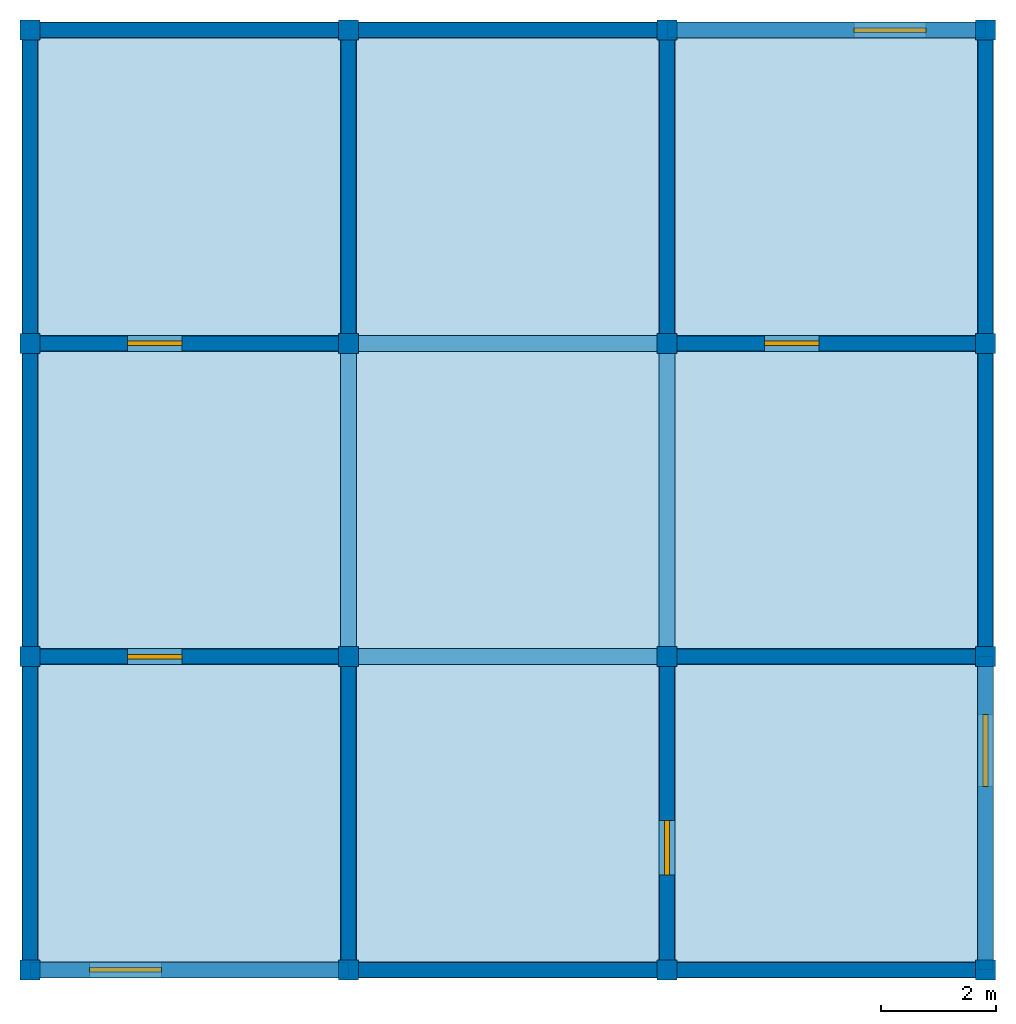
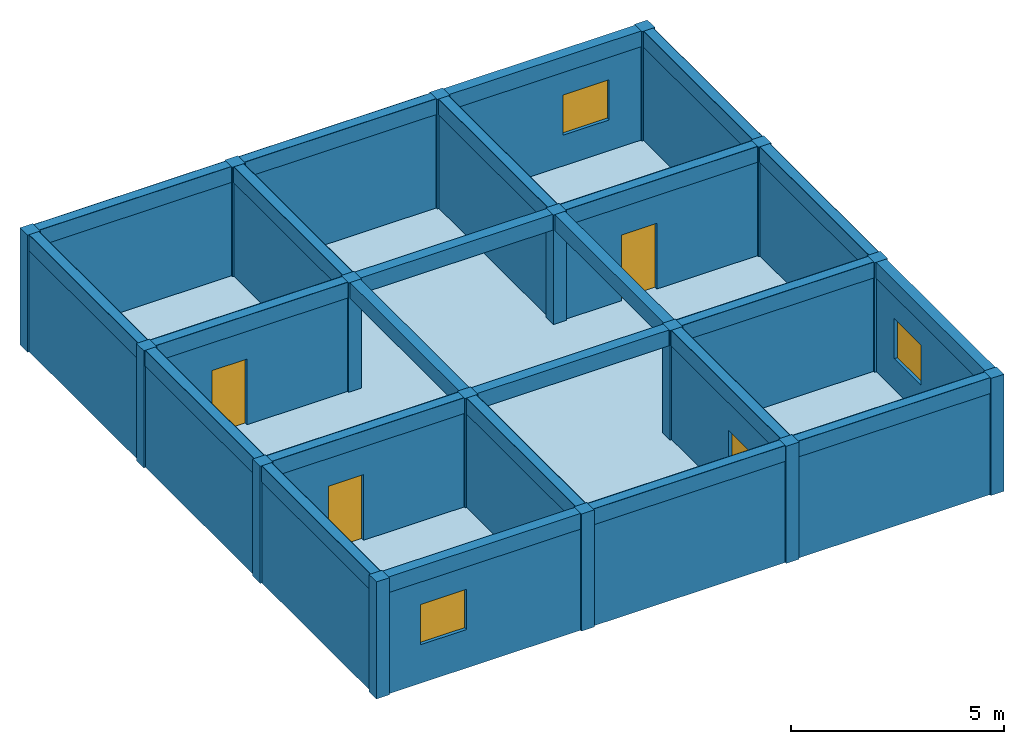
# One storey: 24 beams, 20 walls, 16 columns, 4 doors, 3 windows, 1 slab, 7 openings.
"""IFC4X3 building model written with IfcOpenShell, lengths in metres."""

from ifc_helpers import new_model, si_unit, frame, origin_with_axes, origin_2d, place, context, project, spatial, rectangle, extrude, material, element, fill, save


model = new_model("IFC4X3")

# Units and contexts
model_context = context("Model", 3, precision=1e-05, world=origin_with_axes())
ifc_project = project(units=[si_unit("LENGTHUNIT", "METRE"), si_unit("AREAUNIT", "SQUARE_METRE"), si_unit("VOLUMEUNIT", "CUBIC_METRE")], contexts=[model_context])

# Site, building, storey
site = spatial("IfcSite", under=ifc_project, Name="La Serena Parcel", CompositionType="ELEMENT")
building = spatial("IfcBuilding", under=site, Name="Atlas Building", CompositionType="ELEMENT")
storey = spatial("IfcBuildingStorey", under=building, Name="Level 12", CompositionType="ELEMENT", Elevation=36.84)

# Columns
ifc_material_1 = material(Name="Concrete")
column_1_placement = place(None, frame((-8.31, -8.175, 36.839), z_axis=(0.0, 0.0, 1.0), x_axis=(1.0, 0.0, 0.0)))
element("IfcColumn", 1, at=column_1_placement, inside=storey, material=ifc_material_1, Name="Column 12.1", ObjectType="Core Column", PredefinedType="PILASTER", context=model_context, shape_type="SweptSolid", body=[
    extrude(rectangle(XDim=0.35, YDim=0.35, at=origin_2d()), origin_with_axes(), (0.0, 0.0, 1.0), 3.349),
])
column_2_placement = place(None, frame((-8.31, -2.725, 36.839), z_axis=(0.0, 0.0, 1.0), x_axis=(1.0, 0.0, 0.0)))
element("IfcColumn", 2, at=column_2_placement, inside=storey, material=ifc_material_1, Name="Column 12.2", ObjectType="Structural Column", PredefinedType="NOTDEFINED", context=model_context, shape_type="SweptSolid", body=[
    extrude(rectangle(XDim=0.35, YDim=0.35, at=origin_2d()), origin_with_axes(), (0.0, 0.0, 1.0), 3.349),
])
column_3_placement = place(None, frame((-8.31, 2.725, 36.839), z_axis=(0.0, 0.0, 1.0), x_axis=(1.0, 0.0, 0.0)))
element("IfcColumn", 3, at=column_3_placement, inside=storey, material=ifc_material_1, Name="Column 12.3", ObjectType="Structural Column", PredefinedType="PILASTER", context=model_context, shape_type="SweptSolid", body=[
    extrude(rectangle(XDim=0.35, YDim=0.35, at=origin_2d()), origin_with_axes(), (0.0, 0.0, 1.0), 3.349),
])
column_4_placement = place(None, frame((-8.31, 8.175, 36.839), z_axis=(0.0, 0.0, 1.0), x_axis=(1.0, 0.0, 0.0)))
element("IfcColumn", 4, at=column_4_placement, inside=storey, material=ifc_material_1, Name="Column 12.4", ObjectType="Core Column", PredefinedType="NOTDEFINED", context=model_context, shape_type="SweptSolid", body=[
    extrude(rectangle(XDim=0.35, YDim=0.35, at=origin_2d()), origin_with_axes(), (0.0, 0.0, 1.0), 3.349),
])
for number, where, z_axis, x_axis, name in (
    (5, (-2.77, -8.175, 36.839), (0.0, 0.0, 1.0), (1.0, 0.0, 0.0), "Column 12.5"),
    (6, (-2.77, -2.725, 36.839), (0.0, 0.0, 1.0), (1.0, 0.0, 0.0), "Column 12.6"),
):
    element("IfcColumn", number, at=place(None, frame(where, z_axis=z_axis, x_axis=x_axis)), inside=storey, material=ifc_material_1, Name=name, ObjectType="Facade Column", PredefinedType="USERDEFINED", context=model_context, shape_type="SweptSolid", body=[
        extrude(rectangle(XDim=0.35, YDim=0.35, at=origin_2d()), origin_with_axes(), (0.0, 0.0, 1.0), 3.349),
    ])
for number, where, z_axis, x_axis, name in (
    (7, (-2.77, 2.725, 36.839), (0.0, 0.0, 1.0), (1.0, 0.0, 0.0), "Column 12.7"),
    (8, (-2.77, 8.175, 36.839), (0.0, 0.0, 1.0), (1.0, 0.0, 0.0), "Column 12.8"),
):
    element("IfcColumn", number, at=place(None, frame(where, z_axis=z_axis, x_axis=x_axis)), inside=storey, material=ifc_material_1, Name=name, ObjectType="Corner Column", PredefinedType="NOTDEFINED", context=model_context, shape_type="SweptSolid", body=[
        extrude(rectangle(XDim=0.35, YDim=0.35, at=origin_2d()), origin_with_axes(), (0.0, 0.0, 1.0), 3.349),
    ])
column_5_placement = place(None, frame((2.77, -8.175, 36.839), z_axis=(0.0, 0.0, 1.0), x_axis=(1.0, 0.0, 0.0)))
element("IfcColumn", 9, at=column_5_placement, inside=storey, material=ifc_material_1, Name="Column 12.9", ObjectType="Facade Column", PredefinedType="COLUMN", context=model_context, shape_type="SweptSolid", body=[
    extrude(rectangle(XDim=0.35, YDim=0.35, at=origin_2d()), origin_with_axes(), (0.0, 0.0, 1.0), 3.349),
])
column_6_placement = place(None, frame((2.77, -2.725, 36.839), z_axis=(0.0, 0.0, 1.0), x_axis=(1.0, 0.0, 0.0)))
element("IfcColumn", 10, at=column_6_placement, inside=storey, material=ifc_material_1, Name="Column 12.10", ObjectType="Core Column", PredefinedType="USERDEFINED", context=model_context, shape_type="SweptSolid", body=[
    extrude(rectangle(XDim=0.35, YDim=0.35, at=origin_2d()), origin_with_axes(), (0.0, 0.0, 1.0), 3.349),
])
column_7_placement = place(None, frame((2.77, 2.725, 36.839), z_axis=(0.0, 0.0, 1.0), x_axis=(1.0, 0.0, 0.0)))
element("IfcColumn", 11, at=column_7_placement, inside=storey, material=ifc_material_1, Name="Column 12.11", ObjectType="Core Column", PredefinedType="PILASTER", context=model_context, shape_type="SweptSolid", body=[
    extrude(rectangle(XDim=0.35, YDim=0.35, at=origin_2d()), origin_with_axes(), (0.0, 0.0, 1.0), 3.349),
])
column_8_placement = place(None, frame((2.77, 8.175, 36.839), z_axis=(0.0, 0.0, 1.0), x_axis=(1.0, 0.0, 0.0)))
element("IfcColumn", 12, at=column_8_placement, inside=storey, material=ifc_material_1, Name="Column 12.12", ObjectType="Corner Column", PredefinedType="USERDEFINED", context=model_context, shape_type="SweptSolid", body=[
    extrude(rectangle(XDim=0.35, YDim=0.35, at=origin_2d()), origin_with_axes(), (0.0, 0.0, 1.0), 3.349),
])
column_9_placement = place(None, frame((8.31, -8.175, 36.839), z_axis=(0.0, 0.0, 1.0), x_axis=(1.0, 0.0, 0.0)))
element("IfcColumn", 13, at=column_9_placement, inside=storey, material=ifc_material_1, Name="Column 12.13", ObjectType="Facade Column", PredefinedType="COLUMN", context=model_context, shape_type="SweptSolid", body=[
    extrude(rectangle(XDim=0.35, YDim=0.35, at=origin_2d()), origin_with_axes(), (0.0, 0.0, 1.0), 3.349),
])
for number, where, z_axis, x_axis, name in (
    (14, (8.31, -2.725, 36.839), (0.0, 0.0, 1.0), (1.0, 0.0, 0.0), "Column 12.14"),
    (15, (8.31, 2.725, 36.839), (0.0, 0.0, 1.0), (1.0, 0.0, 0.0), "Column 12.15"),
):
    element("IfcColumn", number, at=place(None, frame(where, z_axis=z_axis, x_axis=x_axis)), inside=storey, material=ifc_material_1, Name=name, ObjectType="Facade Column", PredefinedType="PILASTER", context=model_context, shape_type="SweptSolid", body=[
        extrude(rectangle(XDim=0.35, YDim=0.35, at=origin_2d()), origin_with_axes(), (0.0, 0.0, 1.0), 3.349),
    ])
column_10_placement = place(None, frame((8.31, 8.175, 36.839), z_axis=(0.0, 0.0, 1.0), x_axis=(1.0, 0.0, 0.0)))
element("IfcColumn", 16, at=column_10_placement, inside=storey, material=ifc_material_1, Name="Column 12.16", ObjectType="Structural Column", PredefinedType="USERDEFINED", context=model_context, shape_type="SweptSolid", body=[
    extrude(rectangle(XDim=0.35, YDim=0.35, at=origin_2d()), origin_with_axes(), (0.0, 0.0, 1.0), 3.349),
])

# Beams
beam_1_placement = place(None, frame((-5.54, -8.175, 39.738), z_axis=(0.0, 0.0, 1.0), x_axis=(1.0, 0.0, 0.0)))
element("IfcBeam", 17, at=beam_1_placement, inside=storey, material=ifc_material_1, Name="Beam 12.1", ObjectType="Rafter Beam", PredefinedType="T_BEAM", context=model_context, shape_type="SweptSolid", body=[
    extrude(rectangle(XDim=5.54, YDim=0.28, at=origin_2d()), origin_with_axes(), (0.0, 0.0, 1.0), 0.45),
])
beam_2_placement = place(None, frame((0.0, -8.175, 39.738), z_axis=(0.0, 0.0, 1.0), x_axis=(1.0, 0.0, 0.0)))
element("IfcBeam", 18, at=beam_2_placement, inside=storey, material=ifc_material_1, Name="Beam 12.2", ObjectType="Transfer Beam", PredefinedType="SPANDREL", context=model_context, shape_type="SweptSolid", body=[
    extrude(rectangle(XDim=5.54, YDim=0.28, at=origin_2d()), origin_with_axes(), (0.0, 0.0, 1.0), 0.45),
])
beam_3_placement = place(None, frame((5.54, -8.175, 39.738), z_axis=(0.0, 0.0, 1.0), x_axis=(1.0, 0.0, 0.0)))
element("IfcBeam", 19, at=beam_3_placement, inside=storey, material=ifc_material_1, Name="Beam 12.3", ObjectType="Ridge Beam", PredefinedType="NOTDEFINED", context=model_context, shape_type="SweptSolid", body=[
    extrude(rectangle(XDim=5.54, YDim=0.28, at=origin_2d()), origin_with_axes(), (0.0, 0.0, 1.0), 0.45),
])
beam_4_placement = place(None, frame((-5.54, -2.725, 39.738), z_axis=(0.0, 0.0, 1.0), x_axis=(1.0, 0.0, 0.0)))
element("IfcBeam", 20, at=beam_4_placement, inside=storey, material=ifc_material_1, Name="Beam 12.4", ObjectType="Transfer Beam", PredefinedType="T_BEAM", context=model_context, shape_type="SweptSolid", body=[
    extrude(rectangle(XDim=5.54, YDim=0.28, at=origin_2d()), origin_with_axes(), (0.0, 0.0, 1.0), 0.45),
])
beam_5_placement = place(None, frame((0.0, -2.725, 39.738), z_axis=(0.0, 0.0, 1.0), x_axis=(1.0, 0.0, 0.0)))
element("IfcBeam", 21, at=beam_5_placement, inside=storey, material=ifc_material_1, Name="Beam 12.5", ObjectType="Secondary Beam", PredefinedType="SPANDREL", context=model_context, shape_type="SweptSolid", body=[
    extrude(rectangle(XDim=5.54, YDim=0.28, at=origin_2d()), origin_with_axes(), (0.0, 0.0, 1.0), 0.45),
])
beam_6_placement = place(None, frame((5.54, -2.725, 39.738), z_axis=(0.0, 0.0, 1.0), x_axis=(1.0, 0.0, 0.0)))
element("IfcBeam", 22, at=beam_6_placement, inside=storey, material=ifc_material_1, Name="Beam 12.6", ObjectType="Primary Beam", PredefinedType="SPANDREL", context=model_context, shape_type="SweptSolid", body=[
    extrude(rectangle(XDim=5.54, YDim=0.28, at=origin_2d()), origin_with_axes(), (0.0, 0.0, 1.0), 0.45),
])
for number, where, z_axis, x_axis, name in (
    (23, (-5.54, 2.725, 39.738), (0.0, 0.0, 1.0), (1.0, 0.0, 0.0), "Beam 12.7"),
    (24, (0.0, 2.725, 39.738), (0.0, 0.0, 1.0), (1.0, 0.0, 0.0), "Beam 12.8"),
):
    element("IfcBeam", number, at=place(None, frame(where, z_axis=z_axis, x_axis=x_axis)), inside=storey, material=ifc_material_1, Name=name, ObjectType="Ridge Beam", PredefinedType="JOIST", context=model_context, shape_type="SweptSolid", body=[
        extrude(rectangle(XDim=5.54, YDim=0.28, at=origin_2d()), origin_with_axes(), (0.0, 0.0, 1.0), 0.45),
    ])
beam_7_placement = place(None, frame((5.54, 2.725, 39.738), z_axis=(0.0, 0.0, 1.0), x_axis=(1.0, 0.0, 0.0)))
element("IfcBeam", 25, at=beam_7_placement, inside=storey, material=ifc_material_1, Name="Beam 12.9", ObjectType="Primary Beam", PredefinedType="SPANDREL", context=model_context, shape_type="SweptSolid", body=[
    extrude(rectangle(XDim=5.54, YDim=0.28, at=origin_2d()), origin_with_axes(), (0.0, 0.0, 1.0), 0.45),
])
for number, where, z_axis, x_axis, name in (
    (26, (-5.54, 8.175, 39.738), (0.0, 0.0, 1.0), (1.0, 0.0, 0.0), "Beam 12.10"),
    (27, (0.0, 8.175, 39.738), (0.0, 0.0, 1.0), (1.0, 0.0, 0.0), "Beam 12.11"),
):
    element("IfcBeam", number, at=place(None, frame(where, z_axis=z_axis, x_axis=x_axis)), inside=storey, material=ifc_material_1, Name=name, ObjectType="Secondary Beam", PredefinedType="T_BEAM", context=model_context, shape_type="SweptSolid", body=[
        extrude(rectangle(XDim=5.54, YDim=0.28, at=origin_2d()), origin_with_axes(), (0.0, 0.0, 1.0), 0.45),
    ])
beam_8_placement = place(None, frame((5.54, 8.175, 39.738), z_axis=(0.0, 0.0, 1.0), x_axis=(1.0, 0.0, 0.0)))
element("IfcBeam", 28, at=beam_8_placement, inside=storey, material=ifc_material_1, Name="Beam 12.12", ObjectType="Secondary Beam", PredefinedType="NOTDEFINED", context=model_context, shape_type="SweptSolid", body=[
    extrude(rectangle(XDim=5.54, YDim=0.28, at=origin_2d()), origin_with_axes(), (0.0, 0.0, 1.0), 0.45),
])
beam_9_placement = place(None, frame((-8.31, -5.45, 39.738), z_axis=(0.0, 0.0, 1.0), x_axis=(0.0, 1.0, 0.0)))
element("IfcBeam", 29, at=beam_9_placement, inside=storey, material=ifc_material_1, Name="Beam 12.13", ObjectType="Secondary Beam", PredefinedType="LINTEL", context=model_context, shape_type="SweptSolid", body=[
    extrude(rectangle(XDim=5.45, YDim=0.28, at=origin_2d()), origin_with_axes(), (0.0, 0.0, 1.0), 0.45),
])
beam_10_placement = place(None, frame((-8.31, 0.0, 39.738), z_axis=(0.0, 0.0, 1.0), x_axis=(0.0, 1.0, 0.0)))
element("IfcBeam", 30, at=beam_10_placement, inside=storey, material=ifc_material_1, Name="Beam 12.14", ObjectType="Secondary Beam", PredefinedType="T_BEAM", context=model_context, shape_type="SweptSolid", body=[
    extrude(rectangle(XDim=5.45, YDim=0.28, at=origin_2d()), origin_with_axes(), (0.0, 0.0, 1.0), 0.45),
])
beam_11_placement = place(None, frame((-8.31, 5.45, 39.738), z_axis=(0.0, 0.0, 1.0), x_axis=(0.0, 1.0, 0.0)))
element("IfcBeam", 31, at=beam_11_placement, inside=storey, material=ifc_material_1, Name="Beam 12.15", ObjectType="Primary Beam", PredefinedType="LINTEL", context=model_context, shape_type="SweptSolid", body=[
    extrude(rectangle(XDim=5.45, YDim=0.28, at=origin_2d()), origin_with_axes(), (0.0, 0.0, 1.0), 0.45),
])
beam_12_placement = place(None, frame((-2.77, -5.45, 39.738), z_axis=(0.0, 0.0, 1.0), x_axis=(0.0, 1.0, 0.0)))
element("IfcBeam", 32, at=beam_12_placement, inside=storey, material=ifc_material_1, Name="Beam 12.16", ObjectType="Transfer Beam", PredefinedType="T_BEAM", context=model_context, shape_type="SweptSolid", body=[
    extrude(rectangle(XDim=5.45, YDim=0.28, at=origin_2d()), origin_with_axes(), (0.0, 0.0, 1.0), 0.45),
])
beam_13_placement = place(None, frame((-2.77, 0.0, 39.738), z_axis=(0.0, 0.0, 1.0), x_axis=(0.0, 1.0, 0.0)))
element("IfcBeam", 33, at=beam_13_placement, inside=storey, material=ifc_material_1, Name="Beam 12.17", ObjectType="Secondary Beam", PredefinedType="HOLLOWCORE", context=model_context, shape_type="SweptSolid", body=[
    extrude(rectangle(XDim=5.45, YDim=0.28, at=origin_2d()), origin_with_axes(), (0.0, 0.0, 1.0), 0.45),
])
beam_14_placement = place(None, frame((-2.77, 5.45, 39.738), z_axis=(0.0, 0.0, 1.0), x_axis=(0.0, 1.0, 0.0)))
element("IfcBeam", 34, at=beam_14_placement, inside=storey, material=ifc_material_1, Name="Beam 12.18", ObjectType="Primary Beam", PredefinedType="LINTEL", context=model_context, shape_type="SweptSolid", body=[
    extrude(rectangle(XDim=5.45, YDim=0.28, at=origin_2d()), origin_with_axes(), (0.0, 0.0, 1.0), 0.45),
])
beam_15_placement = place(None, frame((2.77, -5.45, 39.738), z_axis=(0.0, 0.0, 1.0), x_axis=(0.0, 1.0, 0.0)))
element("IfcBeam", 35, at=beam_15_placement, inside=storey, material=ifc_material_1, Name="Beam 12.19", ObjectType="Rafter Beam", PredefinedType="SPANDREL", context=model_context, shape_type="SweptSolid", body=[
    extrude(rectangle(XDim=5.45, YDim=0.28, at=origin_2d()), origin_with_axes(), (0.0, 0.0, 1.0), 0.45),
])
beam_16_placement = place(None, frame((2.77, 0.0, 39.738), z_axis=(0.0, 0.0, 1.0), x_axis=(0.0, 1.0, 0.0)))
element("IfcBeam", 36, at=beam_16_placement, inside=storey, material=ifc_material_1, Name="Beam 12.20", ObjectType="Ridge Beam", PredefinedType="NOTDEFINED", context=model_context, shape_type="SweptSolid", body=[
    extrude(rectangle(XDim=5.45, YDim=0.28, at=origin_2d()), origin_with_axes(), (0.0, 0.0, 1.0), 0.45),
])
beam_17_placement = place(None, frame((2.77, 5.45, 39.738), z_axis=(0.0, 0.0, 1.0), x_axis=(0.0, 1.0, 0.0)))
element("IfcBeam", 37, at=beam_17_placement, inside=storey, material=ifc_material_1, Name="Beam 12.21", ObjectType="Rafter Beam", PredefinedType="T_BEAM", context=model_context, shape_type="SweptSolid", body=[
    extrude(rectangle(XDim=5.45, YDim=0.28, at=origin_2d()), origin_with_axes(), (0.0, 0.0, 1.0), 0.45),
])
beam_18_placement = place(None, frame((8.31, -5.45, 39.738), z_axis=(0.0, 0.0, 1.0), x_axis=(0.0, 1.0, 0.0)))
element("IfcBeam", 38, at=beam_18_placement, inside=storey, material=ifc_material_1, Name="Beam 12.22", ObjectType="Secondary Beam", PredefinedType="T_BEAM", context=model_context, shape_type="SweptSolid", body=[
    extrude(rectangle(XDim=5.45, YDim=0.28, at=origin_2d()), origin_with_axes(), (0.0, 0.0, 1.0), 0.45),
])
beam_19_placement = place(None, frame((8.31, 0.0, 39.738), z_axis=(0.0, 0.0, 1.0), x_axis=(0.0, 1.0, 0.0)))
element("IfcBeam", 39, at=beam_19_placement, inside=storey, material=ifc_material_1, Name="Beam 12.23", ObjectType="Secondary Beam", PredefinedType="BEAM", context=model_context, shape_type="SweptSolid", body=[
    extrude(rectangle(XDim=5.45, YDim=0.28, at=origin_2d()), origin_with_axes(), (0.0, 0.0, 1.0), 0.45),
])
beam_20_placement = place(None, frame((8.31, 5.45, 39.738), z_axis=(0.0, 0.0, 1.0), x_axis=(0.0, 1.0, 0.0)))
element("IfcBeam", 40, at=beam_20_placement, inside=storey, material=ifc_material_1, Name="Beam 12.24", ObjectType="Rafter Beam", PredefinedType="SPANDREL", context=model_context, shape_type="SweptSolid", body=[
    extrude(rectangle(XDim=5.45, YDim=0.28, at=origin_2d()), origin_with_axes(), (0.0, 0.0, 1.0), 0.45),
])

# Slab
ifc_material_2 = material(Name="Composite")
slab_placement = place(None, frame((0.0, 0.0, 36.84), z_axis=(0.0, 0.0, 1.0), x_axis=(1.0, 0.0, 0.0)))
element("IfcSlab", 41, at=slab_placement, inside=storey, material=ifc_material_2, Name="Slab 12", ObjectType="Roof Slab", PredefinedType="ROOF", context=model_context, shape_type="SweptSolid", body=[
    extrude(rectangle(XDim=16.62, YDim=16.35, at=origin_2d()), origin_with_axes(), (0.0, 0.0, 1.0), 0.22),
])

# Wall, opening, door
ifc_material_3 = material(Name="Gypsum")
wall_1_placement = place(None, frame((-5.54, -2.725, 36.839), z_axis=(0.0, 0.0, 1.0), x_axis=(1.0, 0.0, 0.0)))
wall_1 = element("IfcWall", 42, at=wall_1_placement, inside=storey, material=ifc_material_3, Name="Wall 12.1", ObjectType="Corridor Partition", PredefinedType="SHEAR", context=model_context, shape_type="SweptSolid", body=[
    extrude(rectangle(XDim=5.54, YDim=0.25938, at=origin_2d()), origin_with_axes(), (0.0, 0.0, 1.0), 3.349),
])
opening_1_placement = place(None, frame((-6.14, -2.725, 36.839), z_axis=(0.0, 0.0, 1.0), x_axis=(1.0, 0.0, 0.0)))
opening_1 = element("IfcOpeningElement", 43, at=opening_1_placement, cuts=wall_1, Name="Door opening 12.1", ObjectType="Door Opening", PredefinedType="OPENING", context=model_context, shape_type="SweptSolid", body=[
    extrude(rectangle(XDim=0.95, YDim=0.33938, at=origin_2d()), origin_with_axes(), (0.0, 0.0, 1.0), 2.1),
])
door_1_placement = place(None, frame((-6.14, -2.725, 36.839), z_axis=(0.0, 0.0, 1.0), x_axis=(1.0, 0.0, 0.0)))
door_1 = element("IfcDoor", 44, at=door_1_placement, inside=storey, Name="Door 12.1", ObjectType="Interior Door", OverallHeight=2.1, OverallWidth=0.95, context=model_context, shape_type="SweptSolid", body=[
    extrude(rectangle(XDim=0.95, YDim=0.08, at=origin_2d()), origin_with_axes(), (0.0, 0.0, 1.0), 2.1),
])
fill(opening_1, door_1)

# Wall
wall_2_placement = place(None, frame((-2.77, -5.45, 36.839), z_axis=(0.0, 0.0, 1.0), x_axis=(0.0, 1.0, 0.0)))
element("IfcWall", 45, at=wall_2_placement, inside=storey, material=ifc_material_3, Name="Wall 12.2", ObjectType="Corridor Partition", PredefinedType="USERDEFINED", context=model_context, shape_type="SweptSolid", body=[
    extrude(rectangle(XDim=5.45, YDim=0.25938, at=origin_2d()), origin_with_axes(), (0.0, 0.0, 1.0), 3.349),
])

# Wall, opening, window
wall_3_placement = place(None, frame((-5.54, -8.175, 36.839), z_axis=(0.0, 0.0, 1.0), x_axis=(1.0, 0.0, 0.0)))
wall_3 = element("IfcWall", 46, at=wall_3_placement, inside=storey, material=ifc_material_1, Name="Wall 12.3", ObjectType="Exterior Wall", PredefinedType="ELEMENTEDWALL", context=model_context, shape_type="SweptSolid", body=[
    extrude(rectangle(XDim=5.54, YDim=0.25938, at=origin_2d()), origin_with_axes(), (0.0, 0.0, 1.0), 3.349),
])
opening_2_placement = place(None, frame((-6.648, -8.175, 37.939), z_axis=(0.0, 0.0, 1.0), x_axis=(1.0, 0.0, 0.0)))
opening_2 = element("IfcOpeningElement", 47, at=opening_2_placement, cuts=wall_3, Name="Window opening 12.2", ObjectType="Window Opening", PredefinedType="OPENING", context=model_context, shape_type="SweptSolid", body=[
    extrude(rectangle(XDim=1.25, YDim=0.33938, at=origin_2d()), origin_with_axes(), (0.0, 0.0, 1.0), 1.15),
])
window_1_placement = place(None, frame((-6.648, -8.175, 37.939), z_axis=(0.0, 0.0, 1.0), x_axis=(1.0, 0.0, 0.0)))
window_1 = element("IfcWindow", 48, at=window_1_placement, inside=storey, Name="Window 12.2", ObjectType="Fixed Window", OverallHeight=1.15, OverallWidth=1.25, context=model_context, shape_type="SweptSolid", body=[
    extrude(rectangle(XDim=1.25, YDim=0.08, at=origin_2d()), origin_with_axes(), (0.0, 0.0, 1.0), 1.15),
])
fill(opening_2, window_1)

# Wall
wall_4_placement = place(None, frame((-8.31, -5.45, 36.839), z_axis=(0.0, 0.0, 1.0), x_axis=(0.0, 1.0, 0.0)))
element("IfcWall", 49, at=wall_4_placement, inside=storey, material=ifc_material_3, Name="Wall 12.4", ObjectType="Exterior Wall", PredefinedType="PARTITIONING", context=model_context, shape_type="SweptSolid", body=[
    extrude(rectangle(XDim=5.45, YDim=0.25938, at=origin_2d()), origin_with_axes(), (0.0, 0.0, 1.0), 3.349),
])

# Wall, opening, door
wall_5_placement = place(None, frame((2.77, -5.45, 36.839), z_axis=(0.0, 0.0, 1.0), x_axis=(0.0, 1.0, 0.0)))
wall_5 = element("IfcWall", 50, at=wall_5_placement, inside=storey, material=ifc_material_1, Name="Wall 12.5", ObjectType="Corridor Partition", PredefinedType="PARAPET", context=model_context, shape_type="SweptSolid", body=[
    extrude(rectangle(XDim=5.45, YDim=0.25938, at=origin_2d()), origin_with_axes(), (0.0, 0.0, 1.0), 3.349),
])
opening_3_placement = place(None, frame((2.77, -6.05, 36.839), z_axis=(0.0, 0.0, 1.0), x_axis=(0.0, 1.0, 0.0)))
opening_3 = element("IfcOpeningElement", 51, at=opening_3_placement, cuts=wall_5, Name="Door opening 12.3", ObjectType="Door Opening", PredefinedType="OPENING", context=model_context, shape_type="SweptSolid", body=[
    extrude(rectangle(XDim=0.95, YDim=0.33938, at=origin_2d()), origin_with_axes(), (0.0, 0.0, 1.0), 2.1),
])
door_2_placement = place(None, frame((2.77, -6.05, 36.839), z_axis=(0.0, 0.0, 1.0), x_axis=(0.0, 1.0, 0.0)))
door_2 = element("IfcDoor", 52, at=door_2_placement, inside=storey, Name="Door 12.3", ObjectType="Interior Door", OverallHeight=2.1, OverallWidth=0.95, context=model_context, shape_type="SweptSolid", body=[
    extrude(rectangle(XDim=0.95, YDim=0.08, at=origin_2d()), origin_with_axes(), (0.0, 0.0, 1.0), 2.1),
])
fill(opening_3, door_2)

# Walls
ifc_material_4 = material(Name="Brick")
wall_6_placement = place(None, frame((0.0, -8.175, 36.839), z_axis=(0.0, 0.0, 1.0), x_axis=(1.0, 0.0, 0.0)))
element("IfcWall", 53, at=wall_6_placement, inside=storey, material=ifc_material_4, Name="Wall 12.6", ObjectType="Exterior Wall", PredefinedType="STANDARD", context=model_context, shape_type="SweptSolid", body=[
    extrude(rectangle(XDim=5.54, YDim=0.25938, at=origin_2d()), origin_with_axes(), (0.0, 0.0, 1.0), 3.349),
])
wall_7_placement = place(None, frame((5.54, -2.725, 36.839), z_axis=(0.0, 0.0, 1.0), x_axis=(1.0, 0.0, 0.0)))
element("IfcWall", 54, at=wall_7_placement, inside=storey, material=ifc_material_1, Name="Wall 12.7", ObjectType="Corridor Partition", PredefinedType="STANDARD", context=model_context, shape_type="SweptSolid", body=[
    extrude(rectangle(XDim=5.54, YDim=0.25938, at=origin_2d()), origin_with_axes(), (0.0, 0.0, 1.0), 3.349),
])

# Wall, opening, window
wall_8_placement = place(None, frame((8.31, -5.45, 36.839), z_axis=(0.0, 0.0, 1.0), x_axis=(0.0, 1.0, 0.0)))
wall_8 = element("IfcWall", 55, at=wall_8_placement, inside=storey, material=ifc_material_3, Name="Wall 12.8", ObjectType="Exterior Wall", PredefinedType="PARAPET", context=model_context, shape_type="SweptSolid", body=[
    extrude(rectangle(XDim=5.45, YDim=0.25938, at=origin_2d()), origin_with_axes(), (0.0, 0.0, 1.0), 3.349),
])
opening_4_placement = place(None, frame((8.31, -4.36, 37.939), z_axis=(0.0, 0.0, 1.0), x_axis=(0.0, 1.0, 0.0)))
opening_4 = element("IfcOpeningElement", 56, at=opening_4_placement, cuts=wall_8, Name="Window opening 12.4", ObjectType="Window Opening", PredefinedType="OPENING", context=model_context, shape_type="SweptSolid", body=[
    extrude(rectangle(XDim=1.25, YDim=0.33938, at=origin_2d()), origin_with_axes(), (0.0, 0.0, 1.0), 1.15),
])
window_2_placement = place(None, frame((8.31, -4.36, 37.939), z_axis=(0.0, 0.0, 1.0), x_axis=(0.0, 1.0, 0.0)))
window_2 = element("IfcWindow", 57, at=window_2_placement, inside=storey, Name="Window 12.4", ObjectType="Sliding Window", OverallHeight=1.15, OverallWidth=1.25, context=model_context, shape_type="SweptSolid", body=[
    extrude(rectangle(XDim=1.25, YDim=0.08, at=origin_2d()), origin_with_axes(), (0.0, 0.0, 1.0), 1.15),
])
fill(opening_4, window_2)

# Wall
wall_9_placement = place(None, frame((5.54, -8.175, 36.839), z_axis=(0.0, 0.0, 1.0), x_axis=(1.0, 0.0, 0.0)))
element("IfcWall", 58, at=wall_9_placement, inside=storey, material=ifc_material_4, Name="Wall 12.9", ObjectType="Exterior Wall", PredefinedType="PARAPET", context=model_context, shape_type="SweptSolid", body=[
    extrude(rectangle(XDim=5.54, YDim=0.25938, at=origin_2d()), origin_with_axes(), (0.0, 0.0, 1.0), 3.349),
])

# Wall, opening, door
wall_10_placement = place(None, frame((-5.54, 2.725, 36.839), z_axis=(0.0, 0.0, 1.0), x_axis=(1.0, 0.0, 0.0)))
wall_10 = element("IfcWall", 59, at=wall_10_placement, inside=storey, material=ifc_material_3, Name="Wall 12.10", ObjectType="Corridor Partition", PredefinedType="STANDARD", context=model_context, shape_type="SweptSolid", body=[
    extrude(rectangle(XDim=5.54, YDim=0.25938, at=origin_2d()), origin_with_axes(), (0.0, 0.0, 1.0), 3.349),
])
opening_5_placement = place(None, frame((-6.14, 2.725, 36.839), z_axis=(0.0, 0.0, 1.0), x_axis=(1.0, 0.0, 0.0)))
opening_5 = element("IfcOpeningElement", 60, at=opening_5_placement, cuts=wall_10, Name="Door opening 12.5", ObjectType="Door Opening", PredefinedType="OPENING", context=model_context, shape_type="SweptSolid", body=[
    extrude(rectangle(XDim=0.95, YDim=0.33938, at=origin_2d()), origin_with_axes(), (0.0, 0.0, 1.0), 2.1),
])
door_3_placement = place(None, frame((-6.14, 2.725, 36.839), z_axis=(0.0, 0.0, 1.0), x_axis=(1.0, 0.0, 0.0)))
door_3 = element("IfcDoor", 61, at=door_3_placement, inside=storey, Name="Door 12.5", ObjectType="Interior Door", OverallHeight=2.1, OverallWidth=0.95, context=model_context, shape_type="SweptSolid", body=[
    extrude(rectangle(XDim=0.95, YDim=0.08, at=origin_2d()), origin_with_axes(), (0.0, 0.0, 1.0), 2.1),
])
fill(opening_5, door_3)

# Wall
wall_11_placement = place(None, frame((-8.31, 0.0, 36.839), z_axis=(0.0, 0.0, 1.0), x_axis=(0.0, 1.0, 0.0)))
element("IfcWall", 62, at=wall_11_placement, inside=storey, material=ifc_material_4, Name="Wall 12.11", ObjectType="Exterior Wall", PredefinedType="PARTITIONING", context=model_context, shape_type="SweptSolid", body=[
    extrude(rectangle(XDim=5.45, YDim=0.25938, at=origin_2d()), origin_with_axes(), (0.0, 0.0, 1.0), 3.349),
])

# Wall, opening, door
wall_12_placement = place(None, frame((5.54, 2.725, 36.839), z_axis=(0.0, 0.0, 1.0), x_axis=(1.0, 0.0, 0.0)))
wall_12 = element("IfcWall", 63, at=wall_12_placement, inside=storey, material=ifc_material_1, Name="Wall 12.12", ObjectType="Corridor Partition", PredefinedType="STANDARD", context=model_context, shape_type="SweptSolid", body=[
    extrude(rectangle(XDim=5.54, YDim=0.25938, at=origin_2d()), origin_with_axes(), (0.0, 0.0, 1.0), 3.349),
])
opening_6_placement = place(None, frame((4.94, 2.725, 36.839), z_axis=(0.0, 0.0, 1.0), x_axis=(1.0, 0.0, 0.0)))
opening_6 = element("IfcOpeningElement", 64, at=opening_6_placement, cuts=wall_12, Name="Door opening 12.6", ObjectType="Door Opening", PredefinedType="OPENING", context=model_context, shape_type="SweptSolid", body=[
    extrude(rectangle(XDim=0.95, YDim=0.33938, at=origin_2d()), origin_with_axes(), (0.0, 0.0, 1.0), 2.1),
])
door_4_placement = place(None, frame((4.94, 2.725, 36.839), z_axis=(0.0, 0.0, 1.0), x_axis=(1.0, 0.0, 0.0)))
door_4 = element("IfcDoor", 65, at=door_4_placement, inside=storey, Name="Door 12.6", ObjectType="Interior Door", OverallHeight=2.1, OverallWidth=0.95, context=model_context, shape_type="SweptSolid", body=[
    extrude(rectangle(XDim=0.95, YDim=0.08, at=origin_2d()), origin_with_axes(), (0.0, 0.0, 1.0), 2.1),
])
fill(opening_6, door_4)

# Walls
wall_13_placement = place(None, frame((8.31, 0.0, 36.839), z_axis=(0.0, 0.0, 1.0), x_axis=(0.0, 1.0, 0.0)))
element("IfcWall", 66, at=wall_13_placement, inside=storey, material=ifc_material_3, Name="Wall 12.13", ObjectType="Exterior Wall", PredefinedType="USERDEFINED", context=model_context, shape_type="SweptSolid", body=[
    extrude(rectangle(XDim=5.45, YDim=0.25938, at=origin_2d()), origin_with_axes(), (0.0, 0.0, 1.0), 3.349),
])
wall_14_placement = place(None, frame((-5.54, 8.175, 36.839), z_axis=(0.0, 0.0, 1.0), x_axis=(1.0, 0.0, 0.0)))
element("IfcWall", 67, at=wall_14_placement, inside=storey, material=ifc_material_3, Name="Wall 12.14", ObjectType="Exterior Wall", PredefinedType="USERDEFINED", context=model_context, shape_type="SweptSolid", body=[
    extrude(rectangle(XDim=5.54, YDim=0.25938, at=origin_2d()), origin_with_axes(), (0.0, 0.0, 1.0), 3.349),
])
wall_15_placement = place(None, frame((-2.77, 5.45, 36.839), z_axis=(0.0, 0.0, 1.0), x_axis=(0.0, 1.0, 0.0)))
element("IfcWall", 68, at=wall_15_placement, inside=storey, material=ifc_material_1, Name="Wall 12.15", ObjectType="Corridor Partition", PredefinedType="STANDARD", context=model_context, shape_type="SweptSolid", body=[
    extrude(rectangle(XDim=5.45, YDim=0.25938, at=origin_2d()), origin_with_axes(), (0.0, 0.0, 1.0), 3.349),
])
wall_16_placement = place(None, frame((-8.31, 5.45, 36.839), z_axis=(0.0, 0.0, 1.0), x_axis=(0.0, 1.0, 0.0)))
element("IfcWall", 69, at=wall_16_placement, inside=storey, material=ifc_material_3, Name="Wall 12.16", ObjectType="Exterior Wall", PredefinedType="PLUMBINGWALL", context=model_context, shape_type="SweptSolid", body=[
    extrude(rectangle(XDim=5.45, YDim=0.25938, at=origin_2d()), origin_with_axes(), (0.0, 0.0, 1.0), 3.349),
])
wall_17_placement = place(None, frame((0.0, 8.175, 36.839), z_axis=(0.0, 0.0, 1.0), x_axis=(1.0, 0.0, 0.0)))
element("IfcWall", 70, at=wall_17_placement, inside=storey, material=ifc_material_3, Name="Wall 12.17", ObjectType="Exterior Wall", PredefinedType="PARAPET", context=model_context, shape_type="SweptSolid", body=[
    extrude(rectangle(XDim=5.54, YDim=0.25938, at=origin_2d()), origin_with_axes(), (0.0, 0.0, 1.0), 3.349),
])
wall_18_placement = place(None, frame((2.77, 5.45, 36.839), z_axis=(0.0, 0.0, 1.0), x_axis=(0.0, 1.0, 0.0)))
element("IfcWall", 71, at=wall_18_placement, inside=storey, material=ifc_material_4, Name="Wall 12.18", ObjectType="Corridor Partition", PredefinedType="PARTITIONING", context=model_context, shape_type="SweptSolid", body=[
    extrude(rectangle(XDim=5.45, YDim=0.25938, at=origin_2d()), origin_with_axes(), (0.0, 0.0, 1.0), 3.349),
])

# Wall, opening, window
wall_19_placement = place(None, frame((5.54, 8.175, 36.839), z_axis=(0.0, 0.0, 1.0), x_axis=(1.0, 0.0, 0.0)))
wall_19 = element("IfcWall", 72, at=wall_19_placement, inside=storey, material=ifc_material_1, Name="Wall 12.19", ObjectType="Exterior Wall", PredefinedType="ELEMENTEDWALL", context=model_context, shape_type="SweptSolid", body=[
    extrude(rectangle(XDim=5.54, YDim=0.25938, at=origin_2d()), origin_with_axes(), (0.0, 0.0, 1.0), 3.349),
])
opening_7_placement = place(None, frame((6.648, 8.175, 37.939), z_axis=(0.0, 0.0, 1.0), x_axis=(1.0, 0.0, 0.0)))
opening_7 = element("IfcOpeningElement", 73, at=opening_7_placement, cuts=wall_19, Name="Window opening 12.7", ObjectType="Window Opening", PredefinedType="OPENING", context=model_context, shape_type="SweptSolid", body=[
    extrude(rectangle(XDim=1.25, YDim=0.33938, at=origin_2d()), origin_with_axes(), (0.0, 0.0, 1.0), 1.15),
])
window_3_placement = place(None, frame((6.648, 8.175, 37.939), z_axis=(0.0, 0.0, 1.0), x_axis=(1.0, 0.0, 0.0)))
window_3 = element("IfcWindow", 74, at=window_3_placement, inside=storey, Name="Window 12.7", ObjectType="Fixed Window", OverallHeight=1.15, OverallWidth=1.25, context=model_context, shape_type="SweptSolid", body=[
    extrude(rectangle(XDim=1.25, YDim=0.08, at=origin_2d()), origin_with_axes(), (0.0, 0.0, 1.0), 1.15),
])
fill(opening_7, window_3)

# Wall
wall_20_placement = place(None, frame((8.31, 5.45, 36.839), z_axis=(0.0, 0.0, 1.0), x_axis=(0.0, 1.0, 0.0)))
element("IfcWall", 75, at=wall_20_placement, inside=storey, material=ifc_material_3, Name="Wall 12.20", ObjectType="Exterior Wall", PredefinedType="MOVABLE", context=model_context, shape_type="SweptSolid", body=[
    extrude(rectangle(XDim=5.45, YDim=0.25938, at=origin_2d()), origin_with_axes(), (0.0, 0.0, 1.0), 3.349),
])

save(model, "model.ifc")
